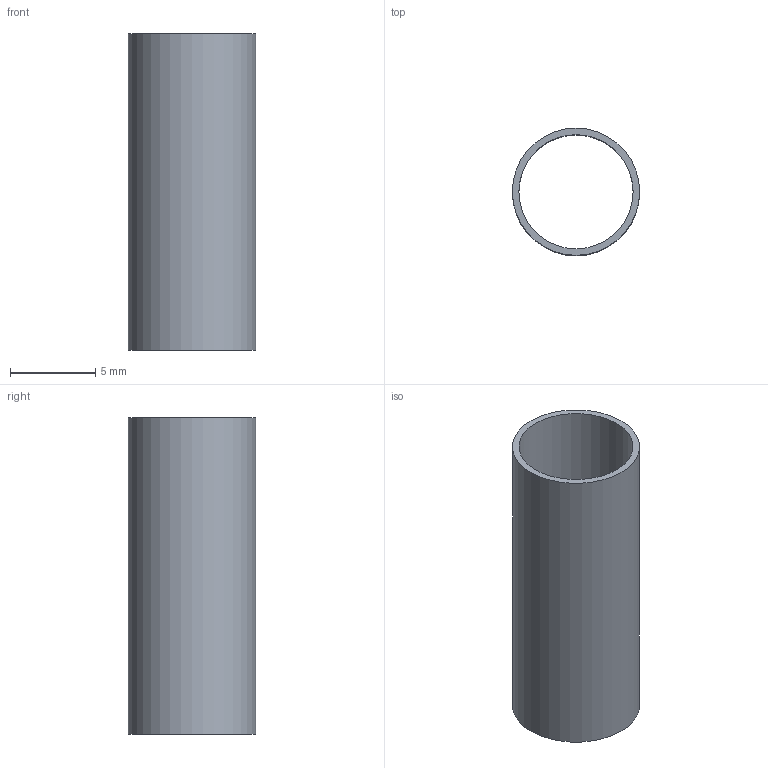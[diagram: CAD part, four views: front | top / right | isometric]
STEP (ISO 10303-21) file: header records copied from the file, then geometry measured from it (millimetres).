
FILE_DESCRIPTION (( 'STEP AP214' ), '1' );
FILE_NAME ('25101r#2.STEP', '2011-07-11T14:17:17', ( 'Vicor User' ), ( 'Microsoft' ), 'SwSTEP 2.0', 'SolidWorks 2010', '' );
FILE_SCHEMA (( 'AUTOMOTIVE_DESIGN' ));
Length unit declared in the file: inch
Products named in the file (1): 25101r#2
Bounding box: 7.44 x 7.44 x 18.54 mm (x, y, z)
Volume: 156.7 mm3; surface area: 839.6 mm2
Topology: 1 solids, 1 shells, 4 faces, 6 edges, 4 vertices
Faces by surface type: plane 2, cylinder 2
Full cylindrical faces by diameter (mm): 6.68 x1, 7.442 x1
Entity records: 128 total; most frequent: DIRECTION 18, CARTESIAN_POINT 13, AXIS2_PLACEMENT_3D 9, ORIENTED_EDGE 8, EDGE_LOOP 8, FACE_OUTER_BOUND 6, EDGE_CURVE 4, CIRCLE 4
